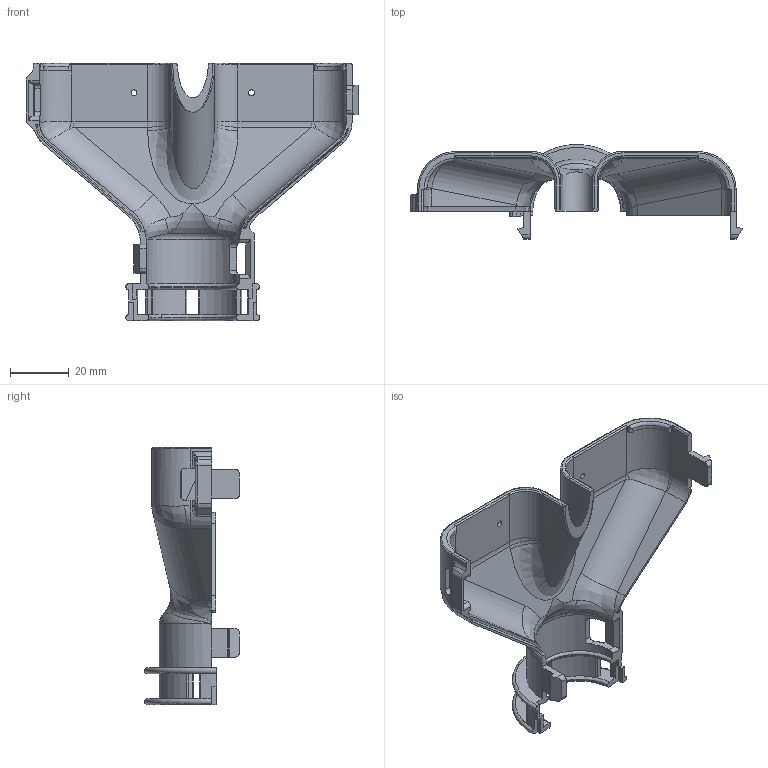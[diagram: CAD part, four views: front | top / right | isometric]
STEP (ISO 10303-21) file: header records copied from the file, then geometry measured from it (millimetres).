
FILE_DESCRIPTION((''),'2;1');
FILE_NAME('C-0528-006-7005','2013-07-30T',('workeradm'),('Tyco Electronics Ltd.'),'PRO/ENGINEER BY PARAMETRIC TECHNOLOGY CORPORATION, 2011490','PRO/ENGINEER BY PARAMETRIC TECHNOLOGY CORPORATION, 2011490','');
FILE_SCHEMA(('AUTOMOTIVE_DESIGN { 1 0 10303 214 1 1 1 1 }'));
Length unit declared in the file: millimetre
Products named in the file (1): C-0528-006-7005
Bounding box: 113 x 32.3 x 87.5 mm (x, y, z)
Volume: 19586.2 mm3; surface area: 20690.3 mm2
Topology: 1 solids, 1 shells, 288 faces, 783 edges, 487 vertices
Faces by surface type: cylinder 108, plane 98, bspline 44, torus 27, sphere 6, cone 4, extrusion 1
Entity records: 15070 total; most frequent: CARTESIAN_POINT 5337, ORIENTED_EDGE 1566, DIRECTION 1386, PRESENTATION_STYLE_ASSIGNMENT 784, STYLED_ITEM 784, CURVE_STYLE 783, EDGE_CURVE 783, AXIS2_PLACEMENT_3D 514
